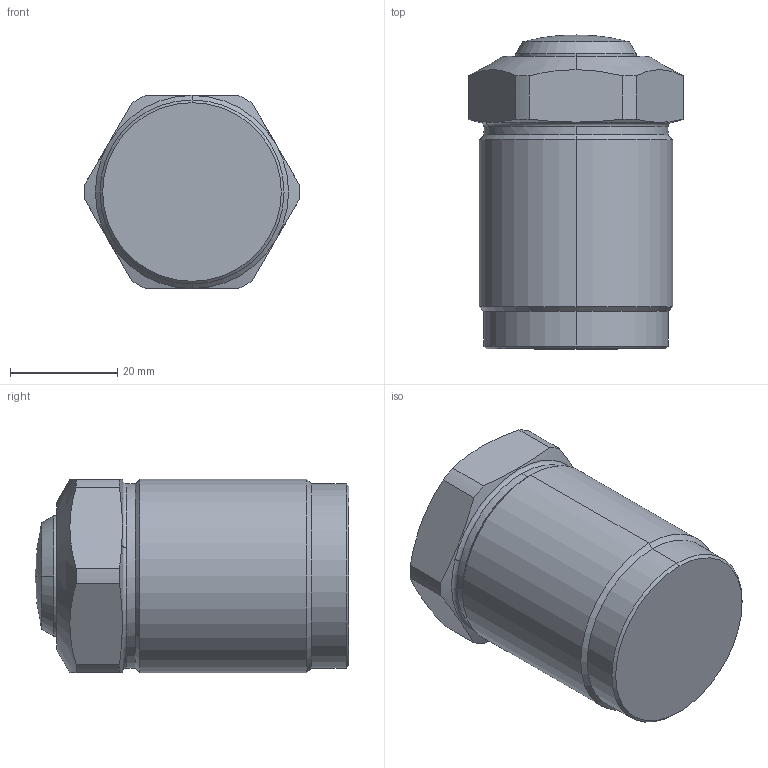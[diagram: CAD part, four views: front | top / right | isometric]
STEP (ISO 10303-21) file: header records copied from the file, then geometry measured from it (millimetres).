
FILE_DESCRIPTION((' '),'2;1');
FILE_NAME( 'CMC10-15R.X_T.stp', '2024-08-27T13:58:39', (' '), ('--- Datakit www.datakit.com---'), ' Datakit CrossCadWare V2024.1 Dec 21 2023', 'Mastercam 2025', ' ');
FILE_SCHEMA(('AUTOMOTIVE_DESIGN { 1 0 10303 214 1 1 1 1 }'));
Length unit declared in the file: millimetre
Products named in the file (1): CMC10-15R
Bounding box: 39.99 x 58.5 x 36 mm (x, y, z)
Volume: 56038.3 mm3; surface area: 11173.5 mm2
Topology: 2 solids, 2 shells, 42 faces, 102 edges, 63 vertices
Faces by surface type: cylinder 16, cone 12, plane 10, torus 2, sphere 2
Entity records: 1348 total; most frequent: CARTESIAN_POINT 338, DIRECTION 220, ORIENTED_EDGE 200, EDGE_CURVE 100, AXIS2_PLACEMENT_3D 93, VERTEX_POINT 63, CIRCLE 50, EDGE_LOOP 43
